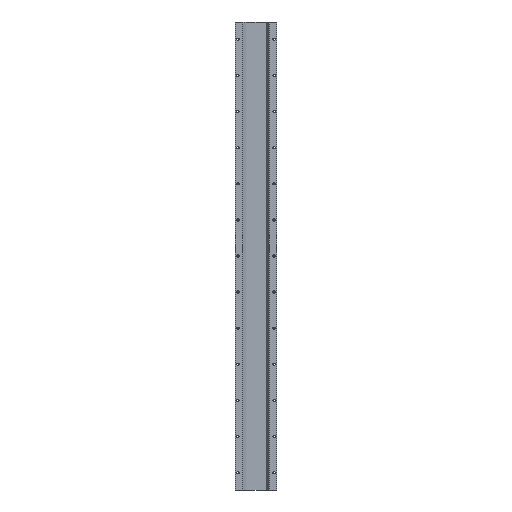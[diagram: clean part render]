
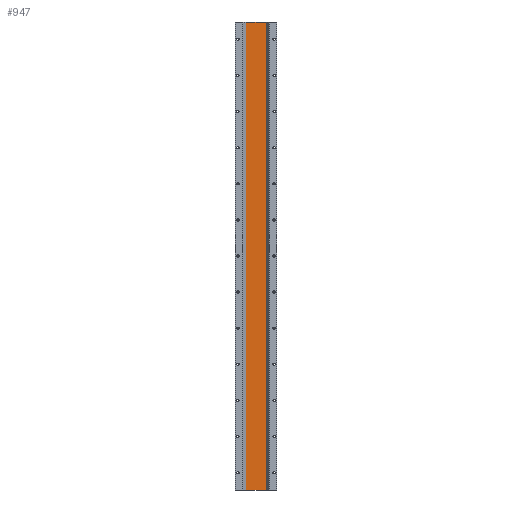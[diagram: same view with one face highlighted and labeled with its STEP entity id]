
A CAD part, front view. The second image highlights one B-rep face of the part: STEP entity #947.
In plain terms, the highlighted planar face has unit normal (0, -1, 0).
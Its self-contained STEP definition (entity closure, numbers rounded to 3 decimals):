
#937 = VERTEX_POINT ( 'NONE', #2520 ) ;
#940 = EDGE_CURVE ( 'NONE', #941, #937, #2560, .T. ) ;
#941 = VERTEX_POINT ( 'NONE', #2556 ) ;
#947 = ADVANCED_FACE ( 'NONE', ( #2418 ), #2417, .T. ) ;
#948 = EDGE_LOOP ( 'NONE', ( #949, #952, #955, #957 ) ) ;
#949 = ORIENTED_EDGE ( 'NONE', *, *, #950, .F. ) ;
#950 = EDGE_CURVE ( 'NONE', #951, #937, #2412, .T. ) ;
#951 = VERTEX_POINT ( 'NONE', #2408 ) ;
#952 = ORIENTED_EDGE ( 'NONE', *, *, #953, .F. ) ;
#953 = EDGE_CURVE ( 'NONE', #954, #951, #2407, .T. ) ;
#954 = VERTEX_POINT ( 'NONE', #2403 ) ;
#955 = ORIENTED_EDGE ( 'NONE', *, *, #956, .T. ) ;
#956 = EDGE_CURVE ( 'NONE', #954, #941, #2402, .T. ) ;
#957 = ORIENTED_EDGE ( 'NONE', *, *, #940, .T. ) ;
#2401 = CARTESIAN_POINT ( 'NONE',  ( 28.2, 13.5, -1296. ) ) ;
#2402 = LINE ( 'NONE', #2401, #2573 ) ;
#2403 = CARTESIAN_POINT ( 'NONE',  ( -28.2, 13.5, -1296. ) ) ;
#2404 = DIRECTION ( 'NONE',  ( 0., 0., 1. ) ) ;
#2405 = VECTOR ( 'NONE', #2404, 1000. ) ;
#2406 = CARTESIAN_POINT ( 'NONE',  ( -28.2, 13.5, -1296. ) ) ;
#2407 = LINE ( 'NONE', #2406, #2405 ) ;
#2408 = CARTESIAN_POINT ( 'NONE',  ( -28.2, 13.5, 0. ) ) ;
#2409 = DIRECTION ( 'NONE',  ( 1., 0., 0. ) ) ;
#2410 = VECTOR ( 'NONE', #2409, 1000. ) ;
#2411 = CARTESIAN_POINT ( 'NONE',  ( 28.2, 13.5, 0. ) ) ;
#2412 = LINE ( 'NONE', #2411, #2410 ) ;
#2413 = DIRECTION ( 'NONE',  ( 0., 0., -1. ) ) ;
#2414 = DIRECTION ( 'NONE',  ( 0., -1., 0. ) ) ;
#2415 = CARTESIAN_POINT ( 'NONE',  ( 28.2, 13.5, -1296. ) ) ;
#2416 = AXIS2_PLACEMENT_3D ( 'NONE', #2415, #2414, #2413 ) ;
#2417 = PLANE ( 'NONE',  #2416 ) ;
#2418 = FACE_OUTER_BOUND ( 'NONE', #948, .T. ) ;
#2520 = CARTESIAN_POINT ( 'NONE',  ( 28.2, 13.5, 0. ) ) ;
#2556 = CARTESIAN_POINT ( 'NONE',  ( 28.2, 13.5, -1296. ) ) ;
#2557 = DIRECTION ( 'NONE',  ( 0., 0., 1. ) ) ;
#2558 = VECTOR ( 'NONE', #2557, 1000. ) ;
#2559 = CARTESIAN_POINT ( 'NONE',  ( 28.2, 13.5, -1296. ) ) ;
#2560 = LINE ( 'NONE', #2559, #2558 ) ;
#2572 = DIRECTION ( 'NONE',  ( 1., 0., 0. ) ) ;
#2573 = VECTOR ( 'NONE', #2572, 1000. ) ;
